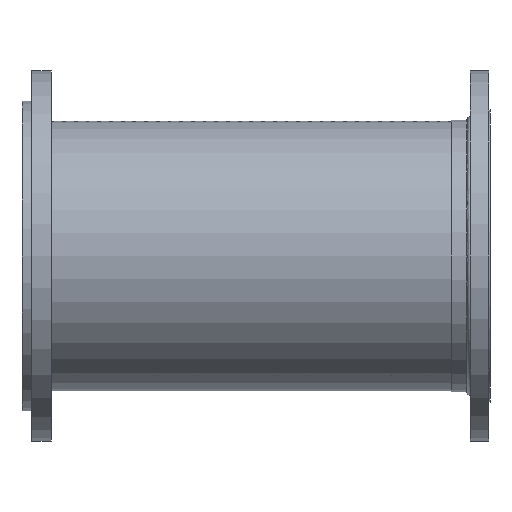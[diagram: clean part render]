
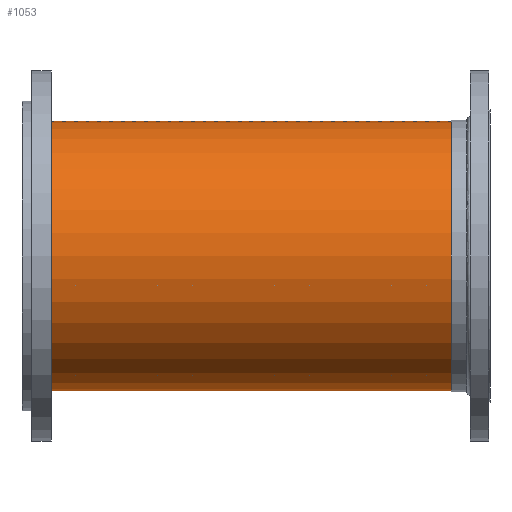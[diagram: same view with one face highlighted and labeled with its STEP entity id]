
A CAD part, left-side view. The second image highlights one B-rep face of the part: STEP entity #1053.
In plain terms, the highlighted cylindrical face has radius 175.768 mm (diameter 351.536 mm), a full revolution.
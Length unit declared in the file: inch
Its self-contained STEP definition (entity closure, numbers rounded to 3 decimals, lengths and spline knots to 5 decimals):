
#1019=CARTESIAN_POINT('',(-6.92,-11.25,0.));
#1020=VERTEX_POINT('',#1019);
#1021=CARTESIAN_POINT('',(0.0,-11.25,0.0));
#1022=DIRECTION('',(0.0,1.0,0.0));
#1023=DIRECTION('',(1.0,0.0,0.0));
#1024=AXIS2_PLACEMENT_3D('',#1021,#1022,#1023);
#1025=CIRCLE('',#1024,6.92);
#1026=EDGE_CURVE('',#1020,#1020,#1025,.T.);
#1034=CARTESIAN_POINT('',(0.0,0.0,0.0));
#1035=DIRECTION('',(0.0,1.0,0.0));
#1036=DIRECTION('',(1.0,0.0,0.0));
#1037=AXIS2_PLACEMENT_3D('',#1034,#1035,#1036);
#1038=CYLINDRICAL_SURFACE('',#1037,6.92);
#1039=ORIENTED_EDGE('',*,*,#1026,.T.);
#1040=EDGE_LOOP('',(#1039));
#1041=FACE_OUTER_BOUND('',#1040,.T.);
#1042=CARTESIAN_POINT('',(-6.92,11.25,0.));
#1043=VERTEX_POINT('',#1042);
#1044=CARTESIAN_POINT('',(0.0,11.25,0.0));
#1045=DIRECTION('',(0.0,-1.0,0.0));
#1046=DIRECTION('',(1.0,0.0,0.0));
#1047=AXIS2_PLACEMENT_3D('',#1044,#1045,#1046);
#1048=CIRCLE('',#1047,6.92);
#1049=EDGE_CURVE('',#1043,#1043,#1048,.T.);
#1050=ORIENTED_EDGE('',*,*,#1049,.T.);
#1051=EDGE_LOOP('',(#1050));
#1052=FACE_BOUND('',#1051,.T.);
#1053=ADVANCED_FACE('',(#1041,#1052),#1038,.T.);
